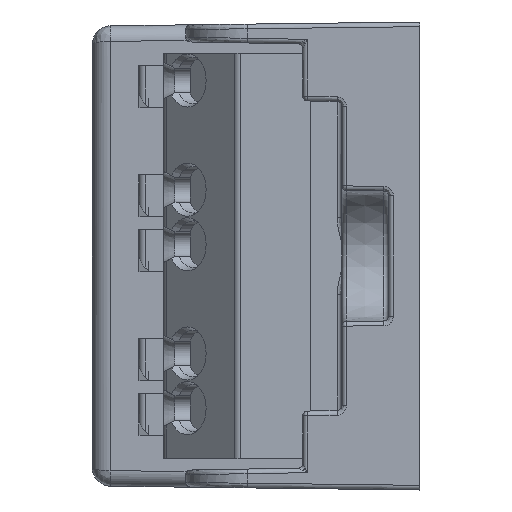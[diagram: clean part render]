
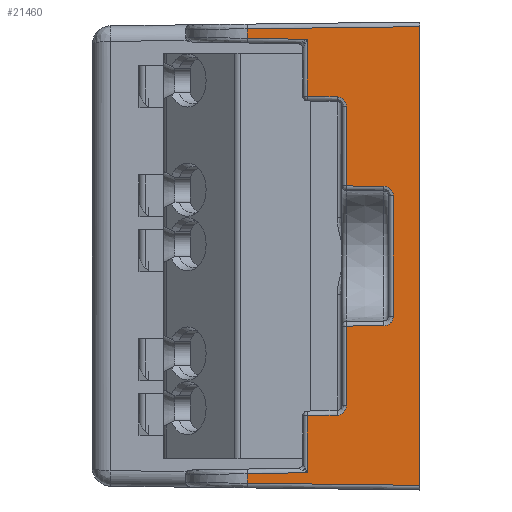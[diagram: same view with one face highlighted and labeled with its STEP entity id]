
A CAD part, left-side view. The second image highlights one B-rep face of the part: STEP entity #21460.
In plain terms, the highlighted planar face has unit normal (-1, 0.018, 0).
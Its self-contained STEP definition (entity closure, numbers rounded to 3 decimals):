
#1868=B_SPLINE_CURVE_WITH_KNOTS('',3,(#33772,#33773,#33774,#33775,#33776,
#33777,#33778,#33779),.UNSPECIFIED.,.F.,.F.,(4,1,1,1,1,4),(0.,0.2,0.4,0.6,
0.8,1.),.UNSPECIFIED.);
#1869=B_SPLINE_CURVE_WITH_KNOTS('',3,(#33785,#33786,#33787,#33788,#33789,
#33790,#33791,#33792),.UNSPECIFIED.,.F.,.F.,(4,1,1,1,1,4),(0.,0.2,0.4,0.6,
0.8,1.),.UNSPECIFIED.);
#1870=B_SPLINE_CURVE_WITH_KNOTS('',3,(#33813,#33814,#33815,#33816,#33817,
#33818,#33819,#33820),.UNSPECIFIED.,.F.,.F.,(4,1,1,1,1,4),(0.,0.2,0.4,0.6,
0.8,1.),.UNSPECIFIED.);
#1871=B_SPLINE_CURVE_WITH_KNOTS('',3,(#33825,#33826,#33827,#33828,#33829,
#33830,#33831,#33832),.UNSPECIFIED.,.F.,.F.,(4,1,1,1,1,4),(0.,0.2,0.4,0.6,
0.8,1.),.UNSPECIFIED.);
#2694=FACE_OUTER_BOUND('',#3884,.T.);
#3884=EDGE_LOOP('',(#16882,#16883,#16884,#16885,#16886,#16887,#16888,#16889,
#16890,#16891,#16892,#16893,#16894,#16895,#16896,#16897,#16898,#16899,#16900,
#16901));
#5765=LINE('',#33291,#7785);
#5853=LINE('',#33770,#7873);
#5854=LINE('',#33781,#7874);
#5855=LINE('',#33783,#7875);
#5856=LINE('',#33794,#7876);
#5857=LINE('',#33796,#7877);
#5858=LINE('',#33798,#7878);
#5859=LINE('',#33800,#7879);
#5860=LINE('',#33801,#7880);
#5861=LINE('',#33803,#7881);
#5862=LINE('',#33805,#7882);
#5863=LINE('',#33807,#7883);
#5864=LINE('',#33809,#7884);
#5865=LINE('',#33811,#7885);
#5866=LINE('',#33822,#7886);
#5867=LINE('',#33824,#7887);
#7785=VECTOR('',#26488,29.4);
#7873=VECTOR('',#26626,7.74);
#7874=VECTOR('',#26627,2.406);
#7875=VECTOR('',#26628,5.114);
#7876=VECTOR('',#26629,1.911);
#7877=VECTOR('',#26630,3.65);
#7878=VECTOR('',#26631,3.866);
#7879=VECTOR('',#26632,0.609);
#7880=VECTOR('',#26633,11.072);
#7881=VECTOR('',#26634,11.072);
#7882=VECTOR('',#26635,0.609);
#7883=VECTOR('',#26636,3.866);
#7884=VECTOR('',#26637,3.65);
#7885=VECTOR('',#26638,1.911);
#7886=VECTOR('',#26639,5.114);
#7887=VECTOR('',#26640,2.406);
#10266=VERTEX_POINT('',#33288);
#10267=VERTEX_POINT('',#33290);
#10360=VERTEX_POINT('',#33768);
#10361=VERTEX_POINT('',#33769);
#10362=VERTEX_POINT('',#33771);
#10363=VERTEX_POINT('',#33780);
#10364=VERTEX_POINT('',#33782);
#10365=VERTEX_POINT('',#33784);
#10366=VERTEX_POINT('',#33793);
#10367=VERTEX_POINT('',#33795);
#10368=VERTEX_POINT('',#33797);
#10369=VERTEX_POINT('',#33799);
#10370=VERTEX_POINT('',#33802);
#10371=VERTEX_POINT('',#33804);
#10372=VERTEX_POINT('',#33806);
#10373=VERTEX_POINT('',#33808);
#10374=VERTEX_POINT('',#33810);
#10375=VERTEX_POINT('',#33812);
#10376=VERTEX_POINT('',#33821);
#10377=VERTEX_POINT('',#33823);
#12601=EDGE_CURVE('',#10267,#10266,#5765,.T.);
#12712=EDGE_CURVE('',#10360,#10361,#5853,.T.);
#12713=EDGE_CURVE('',#10362,#10361,#1868,.T.);
#12714=EDGE_CURVE('',#10362,#10363,#5854,.T.);
#12715=EDGE_CURVE('',#10364,#10363,#5855,.T.);
#12716=EDGE_CURVE('',#10365,#10364,#1869,.T.);
#12717=EDGE_CURVE('',#10366,#10365,#5856,.T.);
#12718=EDGE_CURVE('',#10367,#10366,#5857,.T.);
#12719=EDGE_CURVE('',#10367,#10368,#5858,.T.);
#12720=EDGE_CURVE('',#10369,#10368,#5859,.T.);
#12721=EDGE_CURVE('',#10369,#10267,#5860,.T.);
#12722=EDGE_CURVE('',#10266,#10370,#5861,.T.);
#12723=EDGE_CURVE('',#10371,#10370,#5862,.T.);
#12724=EDGE_CURVE('',#10371,#10372,#5863,.T.);
#12725=EDGE_CURVE('',#10373,#10372,#5864,.T.);
#12726=EDGE_CURVE('',#10374,#10373,#5865,.T.);
#12727=EDGE_CURVE('',#10375,#10374,#1870,.T.);
#12728=EDGE_CURVE('',#10376,#10375,#5866,.T.);
#12729=EDGE_CURVE('',#10376,#10377,#5867,.T.);
#12730=EDGE_CURVE('',#10360,#10377,#1871,.T.);
#16882=ORIENTED_EDGE('',*,*,#12712,.T.);
#16883=ORIENTED_EDGE('',*,*,#12713,.F.);
#16884=ORIENTED_EDGE('',*,*,#12714,.T.);
#16885=ORIENTED_EDGE('',*,*,#12715,.F.);
#16886=ORIENTED_EDGE('',*,*,#12716,.F.);
#16887=ORIENTED_EDGE('',*,*,#12717,.F.);
#16888=ORIENTED_EDGE('',*,*,#12718,.F.);
#16889=ORIENTED_EDGE('',*,*,#12719,.T.);
#16890=ORIENTED_EDGE('',*,*,#12720,.F.);
#16891=ORIENTED_EDGE('',*,*,#12721,.T.);
#16892=ORIENTED_EDGE('',*,*,#12601,.T.);
#16893=ORIENTED_EDGE('',*,*,#12722,.T.);
#16894=ORIENTED_EDGE('',*,*,#12723,.F.);
#16895=ORIENTED_EDGE('',*,*,#12724,.T.);
#16896=ORIENTED_EDGE('',*,*,#12725,.F.);
#16897=ORIENTED_EDGE('',*,*,#12726,.F.);
#16898=ORIENTED_EDGE('',*,*,#12727,.F.);
#16899=ORIENTED_EDGE('',*,*,#12728,.F.);
#16900=ORIENTED_EDGE('',*,*,#12729,.T.);
#16901=ORIENTED_EDGE('',*,*,#12730,.F.);
#20808=PLANE('',#22834);
#21460=ADVANCED_FACE('',(#2694),#20808,.T.);
#22834=AXIS2_PLACEMENT_3D('',#33767,#26624,#26625);
#26488=DIRECTION('',(0.,0.,1.));
#26624=DIRECTION('center_axis',(-1.,0.017,0.));
#26625=DIRECTION('ref_axis',(0.,0.,1.));
#26626=DIRECTION('',(0.,0.,-1.));
#26627=DIRECTION('',(0.017,1.,-0.009));
#26628=DIRECTION('',(0.,0.,1.));
#26629=DIRECTION('',(-0.017,-1.,0.017));
#26630=DIRECTION('',(0.,0.,1.));
#26631=DIRECTION('',(0.017,1.,-0.017));
#26632=DIRECTION('',(0.,0.,1.));
#26633=DIRECTION('',(-0.017,-1.,-0.012));
#26634=DIRECTION('',(0.017,1.,-0.012));
#26635=DIRECTION('',(0.,0.,1.));
#26636=DIRECTION('',(-0.017,-1.,-0.017));
#26637=DIRECTION('',(0.,0.,1.));
#26638=DIRECTION('',(0.017,1.,0.017));
#26639=DIRECTION('',(0.,0.,1.));
#26640=DIRECTION('',(-0.017,-1.,-0.009));
#33288=CARTESIAN_POINT('',(-79.5,0.,14.7));
#33290=CARTESIAN_POINT('',(-79.5,0.,-14.7));
#33291=CARTESIAN_POINT('',(-79.5,0.,-14.7));
#33767=CARTESIAN_POINT('Origin',(-79.5,0.,16.2));
#33768=CARTESIAN_POINT('',(-79.47,1.705,3.87));
#33769=CARTESIAN_POINT('',(-79.47,1.705,-3.87));
#33770=CARTESIAN_POINT('',(-79.47,1.705,3.87));
#33771=CARTESIAN_POINT('',(-79.46,2.3,-4.47));
#33772=CARTESIAN_POINT('Ctrl Pts',(-79.46,2.3,-4.47));
#33773=CARTESIAN_POINT('Ctrl Pts',(-79.461,2.235,-4.469));
#33774=CARTESIAN_POINT('Ctrl Pts',(-79.463,2.113,-4.449));
#33775=CARTESIAN_POINT('Ctrl Pts',(-79.466,1.944,-4.361));
#33776=CARTESIAN_POINT('Ctrl Pts',(-79.468,1.811,-4.227));
#33777=CARTESIAN_POINT('Ctrl Pts',(-79.47,1.725,-4.057));
#33778=CARTESIAN_POINT('Ctrl Pts',(-79.47,1.705,-3.935));
#33779=CARTESIAN_POINT('Ctrl Pts',(-79.47,1.705,-3.87));
#33780=CARTESIAN_POINT('',(-79.418,4.705,-4.491));
#33781=CARTESIAN_POINT('',(-79.46,2.3,-4.47));
#33782=CARTESIAN_POINT('',(-79.418,4.705,-9.605));
#33783=CARTESIAN_POINT('',(-79.418,4.705,-9.605));
#33784=CARTESIAN_POINT('',(-79.408,5.295,-10.205));
#33785=CARTESIAN_POINT('Ctrl Pts',(-79.408,5.295,-10.205));
#33786=CARTESIAN_POINT('Ctrl Pts',(-79.409,5.231,-10.204));
#33787=CARTESIAN_POINT('Ctrl Pts',(-79.411,5.109,-10.182));
#33788=CARTESIAN_POINT('Ctrl Pts',(-79.414,4.941,-10.095));
#33789=CARTESIAN_POINT('Ctrl Pts',(-79.416,4.809,-9.96));
#33790=CARTESIAN_POINT('Ctrl Pts',(-79.418,4.725,-9.791));
#33791=CARTESIAN_POINT('Ctrl Pts',(-79.418,4.705,-9.669));
#33792=CARTESIAN_POINT('Ctrl Pts',(-79.418,4.705,-9.605));
#33793=CARTESIAN_POINT('',(-79.374,7.205,-10.238));
#33794=CARTESIAN_POINT('',(-79.374,7.205,-10.238));
#33795=CARTESIAN_POINT('',(-79.374,7.205,-13.888));
#33796=CARTESIAN_POINT('',(-79.374,7.205,-13.888));
#33797=CARTESIAN_POINT('',(-79.307,11.07,-13.956));
#33798=CARTESIAN_POINT('',(-79.374,7.205,-13.888));
#33799=CARTESIAN_POINT('',(-79.307,11.07,-14.565));
#33800=CARTESIAN_POINT('',(-79.307,11.07,-14.565));
#33801=CARTESIAN_POINT('',(-79.307,11.07,-14.565));
#33802=CARTESIAN_POINT('',(-79.307,11.07,14.565));
#33803=CARTESIAN_POINT('',(-79.5,0.,14.7));
#33804=CARTESIAN_POINT('',(-79.307,11.07,13.956));
#33805=CARTESIAN_POINT('',(-79.307,11.07,13.956));
#33806=CARTESIAN_POINT('',(-79.374,7.205,13.888));
#33807=CARTESIAN_POINT('',(-79.307,11.07,13.956));
#33808=CARTESIAN_POINT('',(-79.374,7.205,10.238));
#33809=CARTESIAN_POINT('',(-79.374,7.205,10.238));
#33810=CARTESIAN_POINT('',(-79.408,5.295,10.205));
#33811=CARTESIAN_POINT('',(-79.408,5.295,10.205));
#33812=CARTESIAN_POINT('',(-79.418,4.705,9.605));
#33813=CARTESIAN_POINT('Ctrl Pts',(-79.418,4.705,9.605));
#33814=CARTESIAN_POINT('Ctrl Pts',(-79.418,4.705,9.669));
#33815=CARTESIAN_POINT('Ctrl Pts',(-79.418,4.725,9.791));
#33816=CARTESIAN_POINT('Ctrl Pts',(-79.416,4.809,9.96));
#33817=CARTESIAN_POINT('Ctrl Pts',(-79.414,4.941,10.095));
#33818=CARTESIAN_POINT('Ctrl Pts',(-79.411,5.109,10.182));
#33819=CARTESIAN_POINT('Ctrl Pts',(-79.409,5.23,10.204));
#33820=CARTESIAN_POINT('Ctrl Pts',(-79.408,5.295,10.205));
#33821=CARTESIAN_POINT('',(-79.418,4.705,4.491));
#33822=CARTESIAN_POINT('',(-79.418,4.705,4.491));
#33823=CARTESIAN_POINT('',(-79.46,2.3,4.47));
#33824=CARTESIAN_POINT('',(-79.418,4.705,4.491));
#33825=CARTESIAN_POINT('Ctrl Pts',(-79.47,1.705,3.87));
#33826=CARTESIAN_POINT('Ctrl Pts',(-79.47,1.705,3.935));
#33827=CARTESIAN_POINT('Ctrl Pts',(-79.47,1.725,4.057));
#33828=CARTESIAN_POINT('Ctrl Pts',(-79.468,1.811,4.227));
#33829=CARTESIAN_POINT('Ctrl Pts',(-79.466,1.944,4.361));
#33830=CARTESIAN_POINT('Ctrl Pts',(-79.463,2.113,4.449));
#33831=CARTESIAN_POINT('Ctrl Pts',(-79.461,2.235,4.469));
#33832=CARTESIAN_POINT('Ctrl Pts',(-79.46,2.3,4.47));
